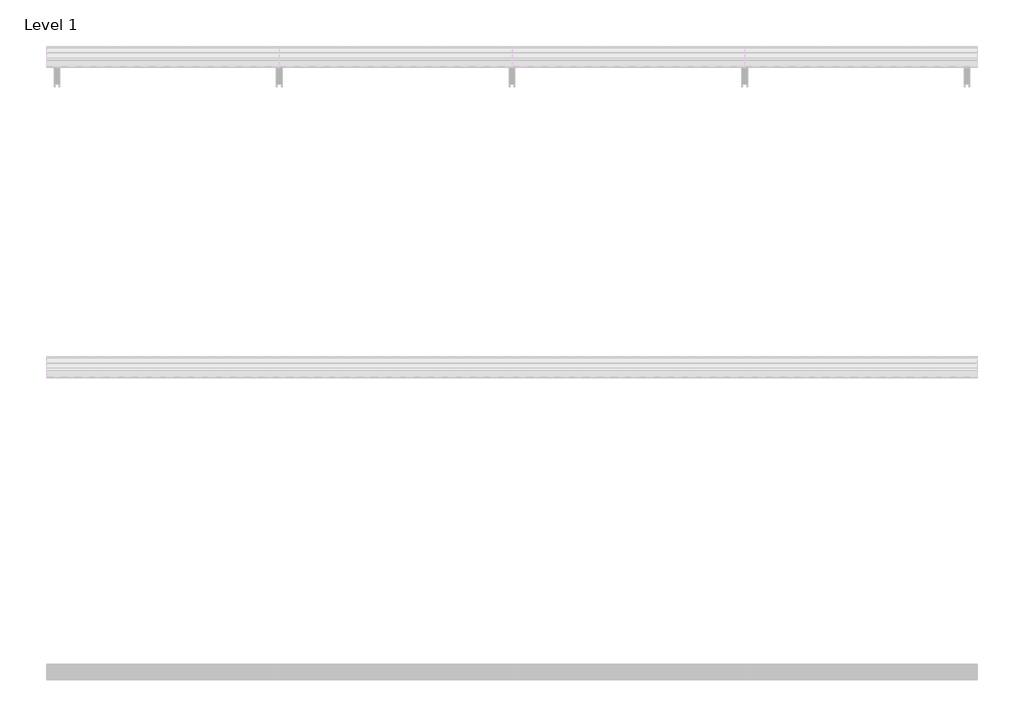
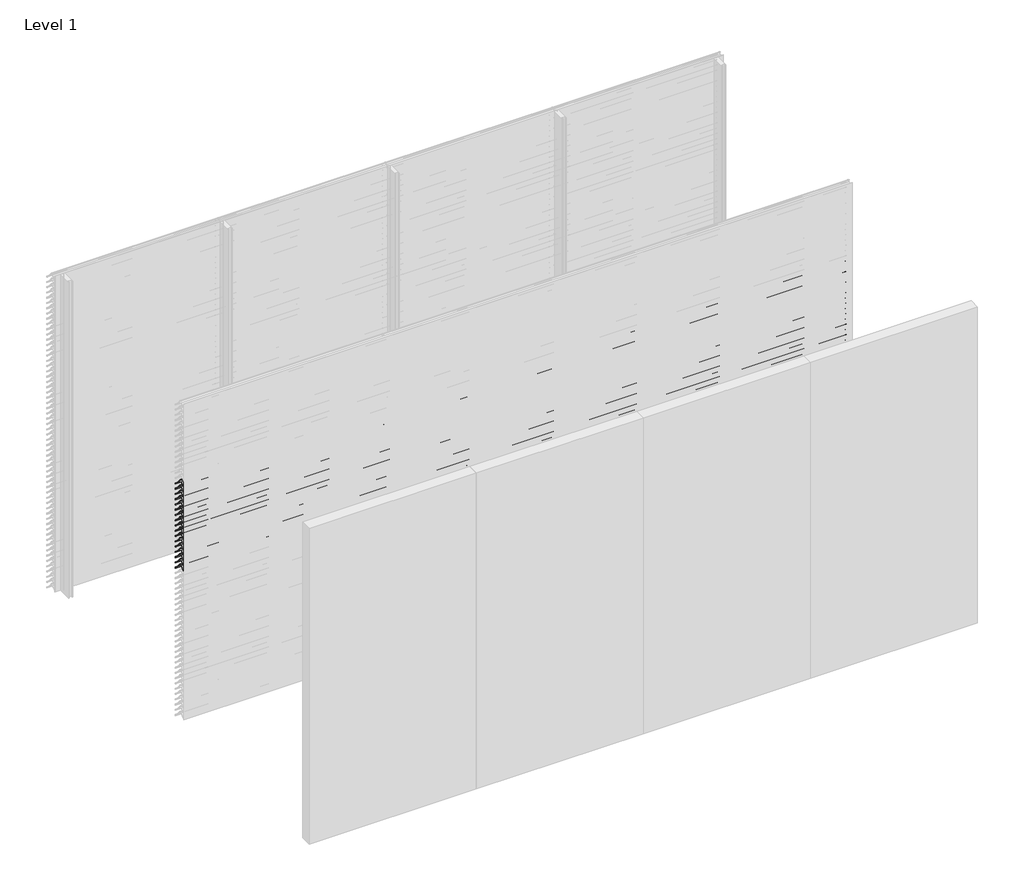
# One storey, part 21 of 173: 17 proxies.
"""IFC4 building model written with IfcOpenShell, lengths in millimetres."""

from ifc_helpers import new_model, si_unit, point, frame, frame_2d, origin, place, context, project, spatial, polyline, circle_curve, trimmed, segment, composite_curve, outline, extrude, element, save

model = new_model("IFC4")

# Units and contexts
model_context = context("Model", 3, world=origin())
ifc_project = project(units=[si_unit("LENGTHUNIT", "METRE", prefix="MILLI")], contexts=[model_context])

# Site, building, storey
site = spatial("IfcSite", under=ifc_project)
building = spatial("IfcBuilding", under=site)
storey = spatial("IfcBuildingStorey", under=building, Name="Level 1", Elevation=0.0)

# Proxies
placement = place(None, origin())
element("IfcBuildingElementProxy", 1, Name="Wall Sweeps", at=placement, inside=storey, context=model_context, shape_type="SweptSolid", body=[
    extrude(outline(composite_curve([segment(polyline([(-49998.0, 2209.1474905), (-49998.0, 2211.6227417)]), True, "CONTINUOUS"), segment(trimmed(circle_curve(frame_2d((-49951.2682172, 2166.2200208)), 65.1557103), [point((-49998.0, 2211.6227417))], [point((-49954.4014323, 2231.3003524))], False, "CARTESIAN"), True, "CONTINUOUS"), segment(polyline([(-49954.4014323, 2231.3003524), (-49934.8315836, 2231.3003524)]), True, "CONTINUOUS"), segment(trimmed(circle_curve(frame_2d((-49732.7329489, 2378.5533172)), 250.0545817), [point((-49934.8315836, 2231.3003524))], [point((-49941.4452143, 2240.8344583))], False, "CARTESIAN"), True, "CONTINUOUS"), segment(trimmed(circle_curve(frame_2d((-49953.2981792, 2235.1737835)), 13.1352966), [point((-49941.4452143, 2240.8344583))], [point((-49953.8171475, 2248.298824))], True, "CARTESIAN"), True, "CONTINUOUS"), segment(polyline([(-49953.8171475, 2248.298824), (-49953.8171475, 2250.0)]), True, "CONTINUOUS"), segment(trimmed(circle_curve(frame_2d((-49953.2981792, 2235.1737835)), 14.8352966), [point((-49953.8171475, 2250.0))], [point((-49939.9637661, 2241.6760487))], False, "CARTESIAN"), True, "CONTINUOUS"), segment(trimmed(circle_curve(frame_2d((-49732.7329489, 2378.5533172)), 248.3545817), [point((-49939.9637661, 2241.6760487))], [point((-49873.8787895, 2174.2059416))], True, "CARTESIAN"), True, "CONTINUOUS"), segment(trimmed(circle_curve(frame_2d((-49883.8147537, 2161.6649442)), 16.0), [point((-49873.8787895, 2174.2059416))], [point((-49867.8648347, 2160.4))], False, "CARTESIAN"), True, "CONTINUOUS"), segment(polyline([(-49867.8648347, 2160.4), (-49869.6712069, 2160.4)]), True, "CONTINUOUS"), segment(trimmed(circle_curve(frame_2d((-49883.8147537, 2161.6649442)), 14.2), [point((-49869.6712069, 2160.4))], [point((-49874.9518628, 2172.7594998))], True, "CARTESIAN"), True, "CONTINUOUS"), segment(trimmed(circle_curve(frame_2d((-49732.7329489, 2378.5533172)), 250.1545817), [point((-49874.9518628, 2172.7594998))], [point((-49933.7064024, 2229.6003524))], False, "CARTESIAN"), True, "CONTINUOUS"), segment(polyline([(-49933.7064024, 2229.6003524), (-49954.3602632, 2229.6003524)]), True, "CONTINUOUS"), segment(trimmed(circle_curve(frame_2d((-49951.2682172, 2166.2200208)), 63.4557103), [point((-49954.3602632, 2229.6003524))], [point((-49998.0, 2209.1474905))], True, "CARTESIAN"), True, "CONTINUOUS")], self_intersect=False)), frame((0.0, 0.0, 0.0), z_axis=(1.0, 0.0, 0.0), x_axis=(0.0, 1.0, 0.0)), (0.0, 0.0, 1.0), 6000.0),
])
element("IfcBuildingElementProxy", 2, Name="Wall Sweeps", at=placement, inside=storey, context=model_context, shape_type="SweptSolid", body=[
    extrude(outline(composite_curve([segment(polyline([(-49998.0, 2159.1474905), (-49998.0, 2161.6227417)]), True, "CONTINUOUS"), segment(trimmed(circle_curve(frame_2d((-49951.2682172, 2116.2200208)), 65.1557103), [point((-49998.0, 2161.6227417))], [point((-49954.4014323, 2181.3003524))], False, "CARTESIAN"), True, "CONTINUOUS"), segment(polyline([(-49954.4014323, 2181.3003524), (-49934.8315836, 2181.3003524)]), True, "CONTINUOUS"), segment(trimmed(circle_curve(frame_2d((-49732.7329489, 2328.5533172)), 250.0545817), [point((-49934.8315836, 2181.3003524))], [point((-49941.4452143, 2190.8344583))], False, "CARTESIAN"), True, "CONTINUOUS"), segment(trimmed(circle_curve(frame_2d((-49953.2981792, 2185.1737835)), 13.1352966), [point((-49941.4452143, 2190.8344583))], [point((-49953.8171475, 2198.298824))], True, "CARTESIAN"), True, "CONTINUOUS"), segment(polyline([(-49953.8171475, 2198.298824), (-49953.8171475, 2200.0)]), True, "CONTINUOUS"), segment(trimmed(circle_curve(frame_2d((-49953.2981792, 2185.1737835)), 14.8352966), [point((-49953.8171475, 2200.0))], [point((-49939.9637661, 2191.6760487))], False, "CARTESIAN"), True, "CONTINUOUS"), segment(trimmed(circle_curve(frame_2d((-49732.7329489, 2328.5533172)), 248.3545817), [point((-49939.9637661, 2191.6760487))], [point((-49873.8787895, 2124.2059416))], True, "CARTESIAN"), True, "CONTINUOUS"), segment(trimmed(circle_curve(frame_2d((-49883.8147537, 2111.6649442)), 16.0), [point((-49873.8787895, 2124.2059416))], [point((-49867.8648347, 2110.4))], False, "CARTESIAN"), True, "CONTINUOUS"), segment(polyline([(-49867.8648347, 2110.4), (-49869.6712069, 2110.4)]), True, "CONTINUOUS"), segment(trimmed(circle_curve(frame_2d((-49883.8147537, 2111.6649442)), 14.2), [point((-49869.6712069, 2110.4))], [point((-49874.9518628, 2122.7594998))], True, "CARTESIAN"), True, "CONTINUOUS"), segment(trimmed(circle_curve(frame_2d((-49732.7329489, 2328.5533172)), 250.1545817), [point((-49874.9518628, 2122.7594998))], [point((-49933.7064024, 2179.6003524))], False, "CARTESIAN"), True, "CONTINUOUS"), segment(polyline([(-49933.7064024, 2179.6003524), (-49954.3602632, 2179.6003524)]), True, "CONTINUOUS"), segment(trimmed(circle_curve(frame_2d((-49951.2682172, 2116.2200208)), 63.4557103), [point((-49954.3602632, 2179.6003524))], [point((-49998.0, 2159.1474905))], True, "CARTESIAN"), True, "CONTINUOUS")], self_intersect=False)), frame((0.0, 0.0, 0.0), z_axis=(1.0, 0.0, 0.0), x_axis=(0.0, 1.0, 0.0)), (0.0, 0.0, 1.0), 6000.0),
])
element("IfcBuildingElementProxy", 3, Name="Wall Sweeps", at=placement, inside=storey, context=model_context, shape_type="SweptSolid", body=[
    extrude(outline(composite_curve([segment(polyline([(-49998.0, 2109.1474905), (-49998.0, 2111.6227417)]), True, "CONTINUOUS"), segment(trimmed(circle_curve(frame_2d((-49951.2682172, 2066.2200208)), 65.1557103), [point((-49998.0, 2111.6227417))], [point((-49954.4014323, 2131.3003524))], False, "CARTESIAN"), True, "CONTINUOUS"), segment(polyline([(-49954.4014323, 2131.3003524), (-49934.8315836, 2131.3003524)]), True, "CONTINUOUS"), segment(trimmed(circle_curve(frame_2d((-49732.7329489, 2278.5533172)), 250.0545817), [point((-49934.8315836, 2131.3003524))], [point((-49941.4452143, 2140.8344583))], False, "CARTESIAN"), True, "CONTINUOUS"), segment(trimmed(circle_curve(frame_2d((-49953.2981792, 2135.1737835)), 13.1352966), [point((-49941.4452143, 2140.8344583))], [point((-49953.8171475, 2148.298824))], True, "CARTESIAN"), True, "CONTINUOUS"), segment(polyline([(-49953.8171475, 2148.298824), (-49953.8171475, 2150.0)]), True, "CONTINUOUS"), segment(trimmed(circle_curve(frame_2d((-49953.2981792, 2135.1737835)), 14.8352966), [point((-49953.8171475, 2150.0))], [point((-49939.9637661, 2141.6760487))], False, "CARTESIAN"), True, "CONTINUOUS"), segment(trimmed(circle_curve(frame_2d((-49732.7329489, 2278.5533172)), 248.3545817), [point((-49939.9637661, 2141.6760487))], [point((-49873.8787895, 2074.2059416))], True, "CARTESIAN"), True, "CONTINUOUS"), segment(trimmed(circle_curve(frame_2d((-49883.8147537, 2061.6649442)), 16.0), [point((-49873.8787895, 2074.2059416))], [point((-49867.8648347, 2060.4))], False, "CARTESIAN"), True, "CONTINUOUS"), segment(polyline([(-49867.8648347, 2060.4), (-49869.6712069, 2060.4)]), True, "CONTINUOUS"), segment(trimmed(circle_curve(frame_2d((-49883.8147537, 2061.6649442)), 14.2), [point((-49869.6712069, 2060.4))], [point((-49874.9518628, 2072.7594998))], True, "CARTESIAN"), True, "CONTINUOUS"), segment(trimmed(circle_curve(frame_2d((-49732.7329489, 2278.5533172)), 250.1545817), [point((-49874.9518628, 2072.7594998))], [point((-49933.7064024, 2129.6003524))], False, "CARTESIAN"), True, "CONTINUOUS"), segment(polyline([(-49933.7064024, 2129.6003524), (-49954.3602632, 2129.6003524)]), True, "CONTINUOUS"), segment(trimmed(circle_curve(frame_2d((-49951.2682172, 2066.2200208)), 63.4557103), [point((-49954.3602632, 2129.6003524))], [point((-49998.0, 2109.1474905))], True, "CARTESIAN"), True, "CONTINUOUS")], self_intersect=False)), frame((0.0, 0.0, 0.0), z_axis=(1.0, 0.0, 0.0), x_axis=(0.0, 1.0, 0.0)), (0.0, 0.0, 1.0), 6000.0),
])
element("IfcBuildingElementProxy", 4, Name="Wall Sweeps", at=placement, inside=storey, context=model_context, shape_type="SweptSolid", body=[
    extrude(outline(composite_curve([segment(polyline([(-49998.0, 2059.1474905), (-49998.0, 2061.6227417)]), True, "CONTINUOUS"), segment(trimmed(circle_curve(frame_2d((-49951.2682172, 2016.2200208)), 65.1557103), [point((-49998.0, 2061.6227417))], [point((-49954.4014323, 2081.3003524))], False, "CARTESIAN"), True, "CONTINUOUS"), segment(polyline([(-49954.4014323, 2081.3003524), (-49934.8315836, 2081.3003524)]), True, "CONTINUOUS"), segment(trimmed(circle_curve(frame_2d((-49732.7329489, 2228.5533172)), 250.0545817), [point((-49934.8315836, 2081.3003524))], [point((-49941.4452143, 2090.8344583))], False, "CARTESIAN"), True, "CONTINUOUS"), segment(trimmed(circle_curve(frame_2d((-49953.2981792, 2085.1737835)), 13.1352966), [point((-49941.4452143, 2090.8344583))], [point((-49953.8171475, 2098.298824))], True, "CARTESIAN"), True, "CONTINUOUS"), segment(polyline([(-49953.8171475, 2098.298824), (-49953.8171475, 2100.0)]), True, "CONTINUOUS"), segment(trimmed(circle_curve(frame_2d((-49953.2981792, 2085.1737835)), 14.8352966), [point((-49953.8171475, 2100.0))], [point((-49939.9637661, 2091.6760487))], False, "CARTESIAN"), True, "CONTINUOUS"), segment(trimmed(circle_curve(frame_2d((-49732.7329489, 2228.5533172)), 248.3545817), [point((-49939.9637661, 2091.6760487))], [point((-49873.8787895, 2024.2059416))], True, "CARTESIAN"), True, "CONTINUOUS"), segment(trimmed(circle_curve(frame_2d((-49883.8147537, 2011.6649442)), 16.0), [point((-49873.8787895, 2024.2059416))], [point((-49867.8648347, 2010.4))], False, "CARTESIAN"), True, "CONTINUOUS"), segment(polyline([(-49867.8648347, 2010.4), (-49869.6712069, 2010.4)]), True, "CONTINUOUS"), segment(trimmed(circle_curve(frame_2d((-49883.8147537, 2011.6649442)), 14.2), [point((-49869.6712069, 2010.4))], [point((-49874.9518628, 2022.7594998))], True, "CARTESIAN"), True, "CONTINUOUS"), segment(trimmed(circle_curve(frame_2d((-49732.7329489, 2228.5533172)), 250.1545817), [point((-49874.9518628, 2022.7594998))], [point((-49933.7064024, 2079.6003524))], False, "CARTESIAN"), True, "CONTINUOUS"), segment(polyline([(-49933.7064024, 2079.6003524), (-49954.3602632, 2079.6003524)]), True, "CONTINUOUS"), segment(trimmed(circle_curve(frame_2d((-49951.2682172, 2016.2200208)), 63.4557103), [point((-49954.3602632, 2079.6003524))], [point((-49998.0, 2059.1474905))], True, "CARTESIAN"), True, "CONTINUOUS")], self_intersect=False)), frame((0.0, 0.0, 0.0), z_axis=(1.0, 0.0, 0.0), x_axis=(0.0, 1.0, 0.0)), (0.0, 0.0, 1.0), 6000.0),
])
element("IfcBuildingElementProxy", 5, Name="Wall Sweeps", at=placement, inside=storey, context=model_context, shape_type="SweptSolid", body=[
    extrude(outline(composite_curve([segment(polyline([(-49998.0, 2009.1474905), (-49998.0, 2011.6227417)]), True, "CONTINUOUS"), segment(trimmed(circle_curve(frame_2d((-49951.2682172, 1966.2200208)), 65.1557103), [point((-49998.0, 2011.6227417))], [point((-49954.4014323, 2031.3003524))], False, "CARTESIAN"), True, "CONTINUOUS"), segment(polyline([(-49954.4014323, 2031.3003524), (-49934.8315836, 2031.3003524)]), True, "CONTINUOUS"), segment(trimmed(circle_curve(frame_2d((-49732.7329489, 2178.5533172)), 250.0545817), [point((-49934.8315836, 2031.3003524))], [point((-49941.4452143, 2040.8344583))], False, "CARTESIAN"), True, "CONTINUOUS"), segment(trimmed(circle_curve(frame_2d((-49953.2981792, 2035.1737835)), 13.1352966), [point((-49941.4452143, 2040.8344583))], [point((-49953.8171475, 2048.298824))], True, "CARTESIAN"), True, "CONTINUOUS"), segment(polyline([(-49953.8171475, 2048.298824), (-49953.8171475, 2050.0)]), True, "CONTINUOUS"), segment(trimmed(circle_curve(frame_2d((-49953.2981792, 2035.1737835)), 14.8352966), [point((-49953.8171475, 2050.0))], [point((-49939.9637661, 2041.6760487))], False, "CARTESIAN"), True, "CONTINUOUS"), segment(trimmed(circle_curve(frame_2d((-49732.7329489, 2178.5533172)), 248.3545817), [point((-49939.9637661, 2041.6760487))], [point((-49873.8787895, 1974.2059416))], True, "CARTESIAN"), True, "CONTINUOUS"), segment(trimmed(circle_curve(frame_2d((-49883.8147537, 1961.6649442)), 16.0), [point((-49873.8787895, 1974.2059416))], [point((-49867.8648347, 1960.4))], False, "CARTESIAN"), True, "CONTINUOUS"), segment(polyline([(-49867.8648347, 1960.4), (-49869.6712069, 1960.4)]), True, "CONTINUOUS"), segment(trimmed(circle_curve(frame_2d((-49883.8147537, 1961.6649442)), 14.2), [point((-49869.6712069, 1960.4))], [point((-49874.9518628, 1972.7594998))], True, "CARTESIAN"), True, "CONTINUOUS"), segment(trimmed(circle_curve(frame_2d((-49732.7329489, 2178.5533172)), 250.1545817), [point((-49874.9518628, 1972.7594998))], [point((-49933.7064024, 2029.6003524))], False, "CARTESIAN"), True, "CONTINUOUS"), segment(polyline([(-49933.7064024, 2029.6003524), (-49954.3602632, 2029.6003524)]), True, "CONTINUOUS"), segment(trimmed(circle_curve(frame_2d((-49951.2682172, 1966.2200208)), 63.4557103), [point((-49954.3602632, 2029.6003524))], [point((-49998.0, 2009.1474905))], True, "CARTESIAN"), True, "CONTINUOUS")], self_intersect=False)), frame((0.0, 0.0, 0.0), z_axis=(1.0, 0.0, 0.0), x_axis=(0.0, 1.0, 0.0)), (0.0, 0.0, 1.0), 6000.0),
])
element("IfcBuildingElementProxy", 6, Name="Wall Sweeps", at=placement, inside=storey, context=model_context, shape_type="SweptSolid", body=[
    extrude(outline(composite_curve([segment(polyline([(-49998.0, 1959.1474905), (-49998.0, 1961.6227417)]), True, "CONTINUOUS"), segment(trimmed(circle_curve(frame_2d((-49951.2682172, 1916.2200208)), 65.1557103), [point((-49998.0, 1961.6227417))], [point((-49954.4014323, 1981.3003524))], False, "CARTESIAN"), True, "CONTINUOUS"), segment(polyline([(-49954.4014323, 1981.3003524), (-49934.8315836, 1981.3003524)]), True, "CONTINUOUS"), segment(trimmed(circle_curve(frame_2d((-49732.7329489, 2128.5533172)), 250.0545817), [point((-49934.8315836, 1981.3003524))], [point((-49941.4452143, 1990.8344583))], False, "CARTESIAN"), True, "CONTINUOUS"), segment(trimmed(circle_curve(frame_2d((-49953.2981792, 1985.1737835)), 13.1352966), [point((-49941.4452143, 1990.8344583))], [point((-49953.8171475, 1998.298824))], True, "CARTESIAN"), True, "CONTINUOUS"), segment(polyline([(-49953.8171475, 1998.298824), (-49953.8171475, 2000.0)]), True, "CONTINUOUS"), segment(trimmed(circle_curve(frame_2d((-49953.2981792, 1985.1737835)), 14.8352966), [point((-49953.8171475, 2000.0))], [point((-49939.9637661, 1991.6760487))], False, "CARTESIAN"), True, "CONTINUOUS"), segment(trimmed(circle_curve(frame_2d((-49732.7329489, 2128.5533172)), 248.3545817), [point((-49939.9637661, 1991.6760487))], [point((-49873.8787895, 1924.2059416))], True, "CARTESIAN"), True, "CONTINUOUS"), segment(trimmed(circle_curve(frame_2d((-49883.8147537, 1911.6649442)), 16.0), [point((-49873.8787895, 1924.2059416))], [point((-49867.8648347, 1910.4))], False, "CARTESIAN"), True, "CONTINUOUS"), segment(polyline([(-49867.8648347, 1910.4), (-49869.6712069, 1910.4)]), True, "CONTINUOUS"), segment(trimmed(circle_curve(frame_2d((-49883.8147537, 1911.6649442)), 14.2), [point((-49869.6712069, 1910.4))], [point((-49874.9518628, 1922.7594998))], True, "CARTESIAN"), True, "CONTINUOUS"), segment(trimmed(circle_curve(frame_2d((-49732.7329489, 2128.5533172)), 250.1545817), [point((-49874.9518628, 1922.7594998))], [point((-49933.7064024, 1979.6003524))], False, "CARTESIAN"), True, "CONTINUOUS"), segment(polyline([(-49933.7064024, 1979.6003524), (-49954.3602632, 1979.6003524)]), True, "CONTINUOUS"), segment(trimmed(circle_curve(frame_2d((-49951.2682172, 1916.2200208)), 63.4557103), [point((-49954.3602632, 1979.6003524))], [point((-49998.0, 1959.1474905))], True, "CARTESIAN"), True, "CONTINUOUS")], self_intersect=False)), frame((0.0, 0.0, 0.0), z_axis=(1.0, 0.0, 0.0), x_axis=(0.0, 1.0, 0.0)), (0.0, 0.0, 1.0), 6000.0),
])
element("IfcBuildingElementProxy", 7, Name="Wall Sweeps", at=placement, inside=storey, context=model_context, shape_type="SweptSolid", body=[
    extrude(outline(composite_curve([segment(polyline([(-49998.0, 1909.1474905), (-49998.0, 1911.6227417)]), True, "CONTINUOUS"), segment(trimmed(circle_curve(frame_2d((-49951.2682172, 1866.2200208)), 65.1557103), [point((-49998.0, 1911.6227417))], [point((-49954.4014323, 1931.3003524))], False, "CARTESIAN"), True, "CONTINUOUS"), segment(polyline([(-49954.4014323, 1931.3003524), (-49934.8315836, 1931.3003524)]), True, "CONTINUOUS"), segment(trimmed(circle_curve(frame_2d((-49732.7329489, 2078.5533172)), 250.0545817), [point((-49934.8315836, 1931.3003524))], [point((-49941.4452143, 1940.8344583))], False, "CARTESIAN"), True, "CONTINUOUS"), segment(trimmed(circle_curve(frame_2d((-49953.2981792, 1935.1737835)), 13.1352966), [point((-49941.4452143, 1940.8344583))], [point((-49953.8171475, 1948.298824))], True, "CARTESIAN"), True, "CONTINUOUS"), segment(polyline([(-49953.8171475, 1948.298824), (-49953.8171475, 1950.0)]), True, "CONTINUOUS"), segment(trimmed(circle_curve(frame_2d((-49953.2981792, 1935.1737835)), 14.8352966), [point((-49953.8171475, 1950.0))], [point((-49939.9637661, 1941.6760487))], False, "CARTESIAN"), True, "CONTINUOUS"), segment(trimmed(circle_curve(frame_2d((-49732.7329489, 2078.5533172)), 248.3545817), [point((-49939.9637661, 1941.6760487))], [point((-49873.8787895, 1874.2059416))], True, "CARTESIAN"), True, "CONTINUOUS"), segment(trimmed(circle_curve(frame_2d((-49883.8147537, 1861.6649442)), 16.0), [point((-49873.8787895, 1874.2059416))], [point((-49867.8648347, 1860.4))], False, "CARTESIAN"), True, "CONTINUOUS"), segment(polyline([(-49867.8648347, 1860.4), (-49869.6712069, 1860.4)]), True, "CONTINUOUS"), segment(trimmed(circle_curve(frame_2d((-49883.8147537, 1861.6649442)), 14.2), [point((-49869.6712069, 1860.4))], [point((-49874.9518628, 1872.7594998))], True, "CARTESIAN"), True, "CONTINUOUS"), segment(trimmed(circle_curve(frame_2d((-49732.7329489, 2078.5533172)), 250.1545817), [point((-49874.9518628, 1872.7594998))], [point((-49933.7064024, 1929.6003524))], False, "CARTESIAN"), True, "CONTINUOUS"), segment(polyline([(-49933.7064024, 1929.6003524), (-49954.3602632, 1929.6003524)]), True, "CONTINUOUS"), segment(trimmed(circle_curve(frame_2d((-49951.2682172, 1866.2200208)), 63.4557103), [point((-49954.3602632, 1929.6003524))], [point((-49998.0, 1909.1474905))], True, "CARTESIAN"), True, "CONTINUOUS")], self_intersect=False)), frame((0.0, 0.0, 0.0), z_axis=(1.0, 0.0, 0.0), x_axis=(0.0, 1.0, 0.0)), (0.0, 0.0, 1.0), 6000.0),
])
element("IfcBuildingElementProxy", 8, Name="Wall Sweeps", at=placement, inside=storey, context=model_context, shape_type="SweptSolid", body=[
    extrude(outline(composite_curve([segment(polyline([(-49998.0, 1859.1474905), (-49998.0, 1861.6227417)]), True, "CONTINUOUS"), segment(trimmed(circle_curve(frame_2d((-49951.2682172, 1816.2200208)), 65.1557103), [point((-49998.0, 1861.6227417))], [point((-49954.4014323, 1881.3003524))], False, "CARTESIAN"), True, "CONTINUOUS"), segment(polyline([(-49954.4014323, 1881.3003524), (-49934.8315836, 1881.3003524)]), True, "CONTINUOUS"), segment(trimmed(circle_curve(frame_2d((-49732.7329489, 2028.5533172)), 250.0545817), [point((-49934.8315836, 1881.3003524))], [point((-49941.4452143, 1890.8344583))], False, "CARTESIAN"), True, "CONTINUOUS"), segment(trimmed(circle_curve(frame_2d((-49953.2981792, 1885.1737835)), 13.1352966), [point((-49941.4452143, 1890.8344583))], [point((-49953.8171475, 1898.298824))], True, "CARTESIAN"), True, "CONTINUOUS"), segment(polyline([(-49953.8171475, 1898.298824), (-49953.8171475, 1900.0)]), True, "CONTINUOUS"), segment(trimmed(circle_curve(frame_2d((-49953.2981792, 1885.1737835)), 14.8352966), [point((-49953.8171475, 1900.0))], [point((-49939.9637661, 1891.6760487))], False, "CARTESIAN"), True, "CONTINUOUS"), segment(trimmed(circle_curve(frame_2d((-49732.7329489, 2028.5533172)), 248.3545817), [point((-49939.9637661, 1891.6760487))], [point((-49873.8787895, 1824.2059416))], True, "CARTESIAN"), True, "CONTINUOUS"), segment(trimmed(circle_curve(frame_2d((-49883.8147537, 1811.6649442)), 16.0), [point((-49873.8787895, 1824.2059416))], [point((-49867.8648347, 1810.4))], False, "CARTESIAN"), True, "CONTINUOUS"), segment(polyline([(-49867.8648347, 1810.4), (-49869.6712069, 1810.4)]), True, "CONTINUOUS"), segment(trimmed(circle_curve(frame_2d((-49883.8147537, 1811.6649442)), 14.2), [point((-49869.6712069, 1810.4))], [point((-49874.9518628, 1822.7594998))], True, "CARTESIAN"), True, "CONTINUOUS"), segment(trimmed(circle_curve(frame_2d((-49732.7329489, 2028.5533172)), 250.1545817), [point((-49874.9518628, 1822.7594998))], [point((-49933.7064024, 1879.6003524))], False, "CARTESIAN"), True, "CONTINUOUS"), segment(polyline([(-49933.7064024, 1879.6003524), (-49954.3602632, 1879.6003524)]), True, "CONTINUOUS"), segment(trimmed(circle_curve(frame_2d((-49951.2682172, 1816.2200208)), 63.4557103), [point((-49954.3602632, 1879.6003524))], [point((-49998.0, 1859.1474905))], True, "CARTESIAN"), True, "CONTINUOUS")], self_intersect=False)), frame((0.0, 0.0, 0.0), z_axis=(1.0, 0.0, 0.0), x_axis=(0.0, 1.0, 0.0)), (0.0, 0.0, 1.0), 6000.0),
])
element("IfcBuildingElementProxy", 9, Name="Wall Sweeps", at=placement, inside=storey, context=model_context, shape_type="SweptSolid", body=[
    extrude(outline(composite_curve([segment(polyline([(-49998.0, 1809.1474905), (-49998.0, 1811.6227417)]), True, "CONTINUOUS"), segment(trimmed(circle_curve(frame_2d((-49951.2682172, 1766.2200208)), 65.1557103), [point((-49998.0, 1811.6227417))], [point((-49954.4014323, 1831.3003524))], False, "CARTESIAN"), True, "CONTINUOUS"), segment(polyline([(-49954.4014323, 1831.3003524), (-49934.8315836, 1831.3003524)]), True, "CONTINUOUS"), segment(trimmed(circle_curve(frame_2d((-49732.7329489, 1978.5533172)), 250.0545817), [point((-49934.8315836, 1831.3003524))], [point((-49941.4452143, 1840.8344583))], False, "CARTESIAN"), True, "CONTINUOUS"), segment(trimmed(circle_curve(frame_2d((-49953.2981792, 1835.1737835)), 13.1352966), [point((-49941.4452143, 1840.8344583))], [point((-49953.8171475, 1848.298824))], True, "CARTESIAN"), True, "CONTINUOUS"), segment(polyline([(-49953.8171475, 1848.298824), (-49953.8171475, 1850.0)]), True, "CONTINUOUS"), segment(trimmed(circle_curve(frame_2d((-49953.2981792, 1835.1737835)), 14.8352966), [point((-49953.8171475, 1850.0))], [point((-49939.9637661, 1841.6760487))], False, "CARTESIAN"), True, "CONTINUOUS"), segment(trimmed(circle_curve(frame_2d((-49732.7329489, 1978.5533172)), 248.3545817), [point((-49939.9637661, 1841.6760487))], [point((-49873.8787895, 1774.2059416))], True, "CARTESIAN"), True, "CONTINUOUS"), segment(trimmed(circle_curve(frame_2d((-49883.8147537, 1761.6649442)), 16.0), [point((-49873.8787895, 1774.2059416))], [point((-49867.8648347, 1760.4))], False, "CARTESIAN"), True, "CONTINUOUS"), segment(polyline([(-49867.8648347, 1760.4), (-49869.6712069, 1760.4)]), True, "CONTINUOUS"), segment(trimmed(circle_curve(frame_2d((-49883.8147537, 1761.6649442)), 14.2), [point((-49869.6712069, 1760.4))], [point((-49874.9518628, 1772.7594998))], True, "CARTESIAN"), True, "CONTINUOUS"), segment(trimmed(circle_curve(frame_2d((-49732.7329489, 1978.5533172)), 250.1545817), [point((-49874.9518628, 1772.7594998))], [point((-49933.7064024, 1829.6003524))], False, "CARTESIAN"), True, "CONTINUOUS"), segment(polyline([(-49933.7064024, 1829.6003524), (-49954.3602632, 1829.6003524)]), True, "CONTINUOUS"), segment(trimmed(circle_curve(frame_2d((-49951.2682172, 1766.2200208)), 63.4557103), [point((-49954.3602632, 1829.6003524))], [point((-49998.0, 1809.1474905))], True, "CARTESIAN"), True, "CONTINUOUS")], self_intersect=False)), frame((0.0, 0.0, 0.0), z_axis=(1.0, 0.0, 0.0), x_axis=(0.0, 1.0, 0.0)), (0.0, 0.0, 1.0), 6000.0),
])
element("IfcBuildingElementProxy", 10, Name="Wall Sweeps", at=placement, inside=storey, context=model_context, shape_type="SweptSolid", body=[
    extrude(outline(composite_curve([segment(polyline([(-49998.0, 1759.1474905), (-49998.0, 1761.6227417)]), True, "CONTINUOUS"), segment(trimmed(circle_curve(frame_2d((-49951.2682172, 1716.2200208)), 65.1557103), [point((-49998.0, 1761.6227417))], [point((-49954.4014323, 1781.3003524))], False, "CARTESIAN"), True, "CONTINUOUS"), segment(polyline([(-49954.4014323, 1781.3003524), (-49934.8315836, 1781.3003524)]), True, "CONTINUOUS"), segment(trimmed(circle_curve(frame_2d((-49732.7329489, 1928.5533172)), 250.0545817), [point((-49934.8315836, 1781.3003524))], [point((-49941.4452143, 1790.8344583))], False, "CARTESIAN"), True, "CONTINUOUS"), segment(trimmed(circle_curve(frame_2d((-49953.2981792, 1785.1737835)), 13.1352966), [point((-49941.4452143, 1790.8344583))], [point((-49953.8171475, 1798.298824))], True, "CARTESIAN"), True, "CONTINUOUS"), segment(polyline([(-49953.8171475, 1798.298824), (-49953.8171475, 1800.0)]), True, "CONTINUOUS"), segment(trimmed(circle_curve(frame_2d((-49953.2981792, 1785.1737835)), 14.8352966), [point((-49953.8171475, 1800.0))], [point((-49939.9637661, 1791.6760487))], False, "CARTESIAN"), True, "CONTINUOUS"), segment(trimmed(circle_curve(frame_2d((-49732.7329489, 1928.5533172)), 248.3545817), [point((-49939.9637661, 1791.6760487))], [point((-49873.8787895, 1724.2059416))], True, "CARTESIAN"), True, "CONTINUOUS"), segment(trimmed(circle_curve(frame_2d((-49883.8147537, 1711.6649442)), 16.0), [point((-49873.8787895, 1724.2059416))], [point((-49867.8648347, 1710.4))], False, "CARTESIAN"), True, "CONTINUOUS"), segment(polyline([(-49867.8648347, 1710.4), (-49869.6712069, 1710.4)]), True, "CONTINUOUS"), segment(trimmed(circle_curve(frame_2d((-49883.8147537, 1711.6649442)), 14.2), [point((-49869.6712069, 1710.4))], [point((-49874.9518628, 1722.7594998))], True, "CARTESIAN"), True, "CONTINUOUS"), segment(trimmed(circle_curve(frame_2d((-49732.7329489, 1928.5533172)), 250.1545817), [point((-49874.9518628, 1722.7594998))], [point((-49933.7064024, 1779.6003524))], False, "CARTESIAN"), True, "CONTINUOUS"), segment(polyline([(-49933.7064024, 1779.6003524), (-49954.3602632, 1779.6003524)]), True, "CONTINUOUS"), segment(trimmed(circle_curve(frame_2d((-49951.2682172, 1716.2200208)), 63.4557103), [point((-49954.3602632, 1779.6003524))], [point((-49998.0, 1759.1474905))], True, "CARTESIAN"), True, "CONTINUOUS")], self_intersect=False)), frame((0.0, 0.0, 0.0), z_axis=(1.0, 0.0, 0.0), x_axis=(0.0, 1.0, 0.0)), (0.0, 0.0, 1.0), 6000.0),
])
element("IfcBuildingElementProxy", 11, Name="Wall Sweeps", at=placement, inside=storey, context=model_context, shape_type="SweptSolid", body=[
    extrude(outline(composite_curve([segment(polyline([(-49998.0, 1709.1474905), (-49998.0, 1711.6227417)]), True, "CONTINUOUS"), segment(trimmed(circle_curve(frame_2d((-49951.2682172, 1666.2200208)), 65.1557103), [point((-49998.0, 1711.6227417))], [point((-49954.4014323, 1731.3003524))], False, "CARTESIAN"), True, "CONTINUOUS"), segment(polyline([(-49954.4014323, 1731.3003524), (-49934.8315836, 1731.3003524)]), True, "CONTINUOUS"), segment(trimmed(circle_curve(frame_2d((-49732.7329489, 1878.5533172)), 250.0545817), [point((-49934.8315836, 1731.3003524))], [point((-49941.4452143, 1740.8344583))], False, "CARTESIAN"), True, "CONTINUOUS"), segment(trimmed(circle_curve(frame_2d((-49953.2981792, 1735.1737835)), 13.1352966), [point((-49941.4452143, 1740.8344583))], [point((-49953.8171475, 1748.298824))], True, "CARTESIAN"), True, "CONTINUOUS"), segment(polyline([(-49953.8171475, 1748.298824), (-49953.8171475, 1750.0)]), True, "CONTINUOUS"), segment(trimmed(circle_curve(frame_2d((-49953.2981792, 1735.1737835)), 14.8352966), [point((-49953.8171475, 1750.0))], [point((-49939.9637661, 1741.6760487))], False, "CARTESIAN"), True, "CONTINUOUS"), segment(trimmed(circle_curve(frame_2d((-49732.7329489, 1878.5533172)), 248.3545817), [point((-49939.9637661, 1741.6760487))], [point((-49873.8787895, 1674.2059416))], True, "CARTESIAN"), True, "CONTINUOUS"), segment(trimmed(circle_curve(frame_2d((-49883.8147537, 1661.6649442)), 16.0), [point((-49873.8787895, 1674.2059416))], [point((-49867.8648347, 1660.4))], False, "CARTESIAN"), True, "CONTINUOUS"), segment(polyline([(-49867.8648347, 1660.4), (-49869.6712069, 1660.4)]), True, "CONTINUOUS"), segment(trimmed(circle_curve(frame_2d((-49883.8147537, 1661.6649442)), 14.2), [point((-49869.6712069, 1660.4))], [point((-49874.9518628, 1672.7594998))], True, "CARTESIAN"), True, "CONTINUOUS"), segment(trimmed(circle_curve(frame_2d((-49732.7329489, 1878.5533172)), 250.1545817), [point((-49874.9518628, 1672.7594998))], [point((-49933.7064024, 1729.6003524))], False, "CARTESIAN"), True, "CONTINUOUS"), segment(polyline([(-49933.7064024, 1729.6003524), (-49954.3602632, 1729.6003524)]), True, "CONTINUOUS"), segment(trimmed(circle_curve(frame_2d((-49951.2682172, 1666.2200208)), 63.4557103), [point((-49954.3602632, 1729.6003524))], [point((-49998.0, 1709.1474905))], True, "CARTESIAN"), True, "CONTINUOUS")], self_intersect=False)), frame((0.0, 0.0, 0.0), z_axis=(1.0, 0.0, 0.0), x_axis=(0.0, 1.0, 0.0)), (0.0, 0.0, 1.0), 6000.0),
])
element("IfcBuildingElementProxy", 12, Name="Wall Sweeps", at=placement, inside=storey, context=model_context, shape_type="SweptSolid", body=[
    extrude(outline(composite_curve([segment(polyline([(-49998.0, 1659.1474905), (-49998.0, 1661.6227417)]), True, "CONTINUOUS"), segment(trimmed(circle_curve(frame_2d((-49951.2682172, 1616.2200208)), 65.1557103), [point((-49998.0, 1661.6227417))], [point((-49954.4014323, 1681.3003524))], False, "CARTESIAN"), True, "CONTINUOUS"), segment(polyline([(-49954.4014323, 1681.3003524), (-49934.8315836, 1681.3003524)]), True, "CONTINUOUS"), segment(trimmed(circle_curve(frame_2d((-49732.7329489, 1828.5533172)), 250.0545817), [point((-49934.8315836, 1681.3003524))], [point((-49941.4452143, 1690.8344583))], False, "CARTESIAN"), True, "CONTINUOUS"), segment(trimmed(circle_curve(frame_2d((-49953.2981792, 1685.1737835)), 13.1352966), [point((-49941.4452143, 1690.8344583))], [point((-49953.8171475, 1698.298824))], True, "CARTESIAN"), True, "CONTINUOUS"), segment(polyline([(-49953.8171475, 1698.298824), (-49953.8171475, 1700.0)]), True, "CONTINUOUS"), segment(trimmed(circle_curve(frame_2d((-49953.2981792, 1685.1737835)), 14.8352966), [point((-49953.8171475, 1700.0))], [point((-49939.9637661, 1691.6760487))], False, "CARTESIAN"), True, "CONTINUOUS"), segment(trimmed(circle_curve(frame_2d((-49732.7329489, 1828.5533172)), 248.3545817), [point((-49939.9637661, 1691.6760487))], [point((-49873.8787895, 1624.2059416))], True, "CARTESIAN"), True, "CONTINUOUS"), segment(trimmed(circle_curve(frame_2d((-49883.8147537, 1611.6649442)), 16.0), [point((-49873.8787895, 1624.2059416))], [point((-49867.8648347, 1610.4))], False, "CARTESIAN"), True, "CONTINUOUS"), segment(polyline([(-49867.8648347, 1610.4), (-49869.6712069, 1610.4)]), True, "CONTINUOUS"), segment(trimmed(circle_curve(frame_2d((-49883.8147537, 1611.6649442)), 14.2), [point((-49869.6712069, 1610.4))], [point((-49874.9518628, 1622.7594998))], True, "CARTESIAN"), True, "CONTINUOUS"), segment(trimmed(circle_curve(frame_2d((-49732.7329489, 1828.5533172)), 250.1545817), [point((-49874.9518628, 1622.7594998))], [point((-49933.7064024, 1679.6003524))], False, "CARTESIAN"), True, "CONTINUOUS"), segment(polyline([(-49933.7064024, 1679.6003524), (-49954.3602632, 1679.6003524)]), True, "CONTINUOUS"), segment(trimmed(circle_curve(frame_2d((-49951.2682172, 1616.2200208)), 63.4557103), [point((-49954.3602632, 1679.6003524))], [point((-49998.0, 1659.1474905))], True, "CARTESIAN"), True, "CONTINUOUS")], self_intersect=False)), frame((0.0, 0.0, 0.0), z_axis=(1.0, 0.0, 0.0), x_axis=(0.0, 1.0, 0.0)), (0.0, 0.0, 1.0), 6000.0),
])
element("IfcBuildingElementProxy", 13, Name="Wall Sweeps", at=placement, inside=storey, context=model_context, shape_type="SweptSolid", body=[
    extrude(outline(composite_curve([segment(polyline([(-49998.0, 1609.1474905), (-49998.0, 1611.6227417)]), True, "CONTINUOUS"), segment(trimmed(circle_curve(frame_2d((-49951.2682172, 1566.2200208)), 65.1557103), [point((-49998.0, 1611.6227417))], [point((-49954.4014323, 1631.3003524))], False, "CARTESIAN"), True, "CONTINUOUS"), segment(polyline([(-49954.4014323, 1631.3003524), (-49934.8315836, 1631.3003524)]), True, "CONTINUOUS"), segment(trimmed(circle_curve(frame_2d((-49732.7329489, 1778.5533172)), 250.0545817), [point((-49934.8315836, 1631.3003524))], [point((-49941.4452143, 1640.8344583))], False, "CARTESIAN"), True, "CONTINUOUS"), segment(trimmed(circle_curve(frame_2d((-49953.2981792, 1635.1737835)), 13.1352966), [point((-49941.4452143, 1640.8344583))], [point((-49953.8171475, 1648.298824))], True, "CARTESIAN"), True, "CONTINUOUS"), segment(polyline([(-49953.8171475, 1648.298824), (-49953.8171475, 1650.0)]), True, "CONTINUOUS"), segment(trimmed(circle_curve(frame_2d((-49953.2981792, 1635.1737835)), 14.8352966), [point((-49953.8171475, 1650.0))], [point((-49939.9637661, 1641.6760487))], False, "CARTESIAN"), True, "CONTINUOUS"), segment(trimmed(circle_curve(frame_2d((-49732.7329489, 1778.5533172)), 248.3545817), [point((-49939.9637661, 1641.6760487))], [point((-49873.8787895, 1574.2059416))], True, "CARTESIAN"), True, "CONTINUOUS"), segment(trimmed(circle_curve(frame_2d((-49883.8147537, 1561.6649442)), 16.0), [point((-49873.8787895, 1574.2059416))], [point((-49867.8648347, 1560.4))], False, "CARTESIAN"), True, "CONTINUOUS"), segment(polyline([(-49867.8648347, 1560.4), (-49869.6712069, 1560.4)]), True, "CONTINUOUS"), segment(trimmed(circle_curve(frame_2d((-49883.8147537, 1561.6649442)), 14.2), [point((-49869.6712069, 1560.4))], [point((-49874.9518628, 1572.7594998))], True, "CARTESIAN"), True, "CONTINUOUS"), segment(trimmed(circle_curve(frame_2d((-49732.7329489, 1778.5533172)), 250.1545817), [point((-49874.9518628, 1572.7594998))], [point((-49933.7064024, 1629.6003524))], False, "CARTESIAN"), True, "CONTINUOUS"), segment(polyline([(-49933.7064024, 1629.6003524), (-49954.3602632, 1629.6003524)]), True, "CONTINUOUS"), segment(trimmed(circle_curve(frame_2d((-49951.2682172, 1566.2200208)), 63.4557103), [point((-49954.3602632, 1629.6003524))], [point((-49998.0, 1609.1474905))], True, "CARTESIAN"), True, "CONTINUOUS")], self_intersect=False)), frame((0.0, 0.0, 0.0), z_axis=(1.0, 0.0, 0.0), x_axis=(0.0, 1.0, 0.0)), (0.0, 0.0, 1.0), 6000.0),
])
element("IfcBuildingElementProxy", 14, Name="Wall Sweeps", at=placement, inside=storey, context=model_context, shape_type="SweptSolid", body=[
    extrude(outline(composite_curve([segment(polyline([(-49998.0, 1559.1474905), (-49998.0, 1561.6227417)]), True, "CONTINUOUS"), segment(trimmed(circle_curve(frame_2d((-49951.2682172, 1516.2200208)), 65.1557103), [point((-49998.0, 1561.6227417))], [point((-49954.4014323, 1581.3003524))], False, "CARTESIAN"), True, "CONTINUOUS"), segment(polyline([(-49954.4014323, 1581.3003524), (-49934.8315836, 1581.3003524)]), True, "CONTINUOUS"), segment(trimmed(circle_curve(frame_2d((-49732.7329489, 1728.5533172)), 250.0545817), [point((-49934.8315836, 1581.3003524))], [point((-49941.4452143, 1590.8344583))], False, "CARTESIAN"), True, "CONTINUOUS"), segment(trimmed(circle_curve(frame_2d((-49953.2981792, 1585.1737835)), 13.1352966), [point((-49941.4452143, 1590.8344583))], [point((-49953.8171475, 1598.298824))], True, "CARTESIAN"), True, "CONTINUOUS"), segment(polyline([(-49953.8171475, 1598.298824), (-49953.8171475, 1600.0)]), True, "CONTINUOUS"), segment(trimmed(circle_curve(frame_2d((-49953.2981792, 1585.1737835)), 14.8352966), [point((-49953.8171475, 1600.0))], [point((-49939.9637661, 1591.6760487))], False, "CARTESIAN"), True, "CONTINUOUS"), segment(trimmed(circle_curve(frame_2d((-49732.7329489, 1728.5533172)), 248.3545817), [point((-49939.9637661, 1591.6760487))], [point((-49873.8787895, 1524.2059416))], True, "CARTESIAN"), True, "CONTINUOUS"), segment(trimmed(circle_curve(frame_2d((-49883.8147537, 1511.6649442)), 16.0), [point((-49873.8787895, 1524.2059416))], [point((-49867.8648347, 1510.4))], False, "CARTESIAN"), True, "CONTINUOUS"), segment(polyline([(-49867.8648347, 1510.4), (-49869.6712069, 1510.4)]), True, "CONTINUOUS"), segment(trimmed(circle_curve(frame_2d((-49883.8147537, 1511.6649442)), 14.2), [point((-49869.6712069, 1510.4))], [point((-49874.9518628, 1522.7594998))], True, "CARTESIAN"), True, "CONTINUOUS"), segment(trimmed(circle_curve(frame_2d((-49732.7329489, 1728.5533172)), 250.1545817), [point((-49874.9518628, 1522.7594998))], [point((-49933.7064024, 1579.6003524))], False, "CARTESIAN"), True, "CONTINUOUS"), segment(polyline([(-49933.7064024, 1579.6003524), (-49954.3602632, 1579.6003524)]), True, "CONTINUOUS"), segment(trimmed(circle_curve(frame_2d((-49951.2682172, 1516.2200208)), 63.4557103), [point((-49954.3602632, 1579.6003524))], [point((-49998.0, 1559.1474905))], True, "CARTESIAN"), True, "CONTINUOUS")], self_intersect=False)), frame((0.0, 0.0, 0.0), z_axis=(1.0, 0.0, 0.0), x_axis=(0.0, 1.0, 0.0)), (0.0, 0.0, 1.0), 6000.0),
])
element("IfcBuildingElementProxy", 15, Name="Wall Sweeps", at=placement, inside=storey, context=model_context, shape_type="SweptSolid", body=[
    extrude(outline(composite_curve([segment(polyline([(-49998.0, 1509.1474905), (-49998.0, 1511.6227417)]), True, "CONTINUOUS"), segment(trimmed(circle_curve(frame_2d((-49951.2682172, 1466.2200208)), 65.1557103), [point((-49998.0, 1511.6227417))], [point((-49954.4014323, 1531.3003524))], False, "CARTESIAN"), True, "CONTINUOUS"), segment(polyline([(-49954.4014323, 1531.3003524), (-49934.8315836, 1531.3003524)]), True, "CONTINUOUS"), segment(trimmed(circle_curve(frame_2d((-49732.7329489, 1678.5533172)), 250.0545817), [point((-49934.8315836, 1531.3003524))], [point((-49941.4452143, 1540.8344583))], False, "CARTESIAN"), True, "CONTINUOUS"), segment(trimmed(circle_curve(frame_2d((-49953.2981792, 1535.1737835)), 13.1352966), [point((-49941.4452143, 1540.8344583))], [point((-49953.8171475, 1548.298824))], True, "CARTESIAN"), True, "CONTINUOUS"), segment(polyline([(-49953.8171475, 1548.298824), (-49953.8171475, 1550.0)]), True, "CONTINUOUS"), segment(trimmed(circle_curve(frame_2d((-49953.2981792, 1535.1737835)), 14.8352966), [point((-49953.8171475, 1550.0))], [point((-49939.9637661, 1541.6760487))], False, "CARTESIAN"), True, "CONTINUOUS"), segment(trimmed(circle_curve(frame_2d((-49732.7329489, 1678.5533172)), 248.3545817), [point((-49939.9637661, 1541.6760487))], [point((-49873.8787895, 1474.2059416))], True, "CARTESIAN"), True, "CONTINUOUS"), segment(trimmed(circle_curve(frame_2d((-49883.8147537, 1461.6649442)), 16.0), [point((-49873.8787895, 1474.2059416))], [point((-49867.8648347, 1460.4))], False, "CARTESIAN"), True, "CONTINUOUS"), segment(polyline([(-49867.8648347, 1460.4), (-49869.6712069, 1460.4)]), True, "CONTINUOUS"), segment(trimmed(circle_curve(frame_2d((-49883.8147537, 1461.6649442)), 14.2), [point((-49869.6712069, 1460.4))], [point((-49874.9518628, 1472.7594998))], True, "CARTESIAN"), True, "CONTINUOUS"), segment(trimmed(circle_curve(frame_2d((-49732.7329489, 1678.5533172)), 250.1545817), [point((-49874.9518628, 1472.7594998))], [point((-49933.7064024, 1529.6003524))], False, "CARTESIAN"), True, "CONTINUOUS"), segment(polyline([(-49933.7064024, 1529.6003524), (-49954.3602632, 1529.6003524)]), True, "CONTINUOUS"), segment(trimmed(circle_curve(frame_2d((-49951.2682172, 1466.2200208)), 63.4557103), [point((-49954.3602632, 1529.6003524))], [point((-49998.0, 1509.1474905))], True, "CARTESIAN"), True, "CONTINUOUS")], self_intersect=False)), frame((0.0, 0.0, 0.0), z_axis=(1.0, 0.0, 0.0), x_axis=(0.0, 1.0, 0.0)), (0.0, 0.0, 1.0), 6000.0),
])
element("IfcBuildingElementProxy", 16, Name="Wall Sweeps", at=placement, inside=storey, context=model_context, shape_type="SweptSolid", body=[
    extrude(outline(composite_curve([segment(polyline([(-49998.0, 1459.1474905), (-49998.0, 1461.6227417)]), True, "CONTINUOUS"), segment(trimmed(circle_curve(frame_2d((-49951.2682172, 1416.2200208)), 65.1557103), [point((-49998.0, 1461.6227417))], [point((-49954.4014323, 1481.3003524))], False, "CARTESIAN"), True, "CONTINUOUS"), segment(polyline([(-49954.4014323, 1481.3003524), (-49934.8315836, 1481.3003524)]), True, "CONTINUOUS"), segment(trimmed(circle_curve(frame_2d((-49732.7329489, 1628.5533172)), 250.0545817), [point((-49934.8315836, 1481.3003524))], [point((-49941.4452143, 1490.8344583))], False, "CARTESIAN"), True, "CONTINUOUS"), segment(trimmed(circle_curve(frame_2d((-49953.2981792, 1485.1737835)), 13.1352966), [point((-49941.4452143, 1490.8344583))], [point((-49953.8171475, 1498.298824))], True, "CARTESIAN"), True, "CONTINUOUS"), segment(polyline([(-49953.8171475, 1498.298824), (-49953.8171475, 1500.0)]), True, "CONTINUOUS"), segment(trimmed(circle_curve(frame_2d((-49953.2981792, 1485.1737835)), 14.8352966), [point((-49953.8171475, 1500.0))], [point((-49939.9637661, 1491.6760487))], False, "CARTESIAN"), True, "CONTINUOUS"), segment(trimmed(circle_curve(frame_2d((-49732.7329489, 1628.5533172)), 248.3545817), [point((-49939.9637661, 1491.6760487))], [point((-49873.8787895, 1424.2059416))], True, "CARTESIAN"), True, "CONTINUOUS"), segment(trimmed(circle_curve(frame_2d((-49883.8147537, 1411.6649442)), 16.0), [point((-49873.8787895, 1424.2059416))], [point((-49867.8648347, 1410.4))], False, "CARTESIAN"), True, "CONTINUOUS"), segment(polyline([(-49867.8648347, 1410.4), (-49869.6712069, 1410.4)]), True, "CONTINUOUS"), segment(trimmed(circle_curve(frame_2d((-49883.8147537, 1411.6649442)), 14.2), [point((-49869.6712069, 1410.4))], [point((-49874.9518628, 1422.7594998))], True, "CARTESIAN"), True, "CONTINUOUS"), segment(trimmed(circle_curve(frame_2d((-49732.7329489, 1628.5533172)), 250.1545817), [point((-49874.9518628, 1422.7594998))], [point((-49933.7064024, 1479.6003524))], False, "CARTESIAN"), True, "CONTINUOUS"), segment(polyline([(-49933.7064024, 1479.6003524), (-49954.3602632, 1479.6003524)]), True, "CONTINUOUS"), segment(trimmed(circle_curve(frame_2d((-49951.2682172, 1416.2200208)), 63.4557103), [point((-49954.3602632, 1479.6003524))], [point((-49998.0, 1459.1474905))], True, "CARTESIAN"), True, "CONTINUOUS")], self_intersect=False)), frame((0.0, 0.0, 0.0), z_axis=(1.0, 0.0, 0.0), x_axis=(0.0, 1.0, 0.0)), (0.0, 0.0, 1.0), 6000.0),
])
element("IfcBuildingElementProxy", 17, Name="Wall Sweeps", at=placement, inside=storey, context=model_context, shape_type="SweptSolid", body=[
    extrude(outline(composite_curve([segment(polyline([(-49998.0, 1409.1474905), (-49998.0, 1411.6227417)]), True, "CONTINUOUS"), segment(trimmed(circle_curve(frame_2d((-49951.2682172, 1366.2200208)), 65.1557103), [point((-49998.0, 1411.6227417))], [point((-49954.4014323, 1431.3003524))], False, "CARTESIAN"), True, "CONTINUOUS"), segment(polyline([(-49954.4014323, 1431.3003524), (-49934.8315836, 1431.3003524)]), True, "CONTINUOUS"), segment(trimmed(circle_curve(frame_2d((-49732.7329489, 1578.5533172)), 250.0545817), [point((-49934.8315836, 1431.3003524))], [point((-49941.4452143, 1440.8344583))], False, "CARTESIAN"), True, "CONTINUOUS"), segment(trimmed(circle_curve(frame_2d((-49953.2981792, 1435.1737835)), 13.1352966), [point((-49941.4452143, 1440.8344583))], [point((-49953.8171475, 1448.298824))], True, "CARTESIAN"), True, "CONTINUOUS"), segment(polyline([(-49953.8171475, 1448.298824), (-49953.8171475, 1450.0)]), True, "CONTINUOUS"), segment(trimmed(circle_curve(frame_2d((-49953.2981792, 1435.1737835)), 14.8352966), [point((-49953.8171475, 1450.0))], [point((-49939.9637661, 1441.6760487))], False, "CARTESIAN"), True, "CONTINUOUS"), segment(trimmed(circle_curve(frame_2d((-49732.7329489, 1578.5533172)), 248.3545817), [point((-49939.9637661, 1441.6760487))], [point((-49873.8787895, 1374.2059416))], True, "CARTESIAN"), True, "CONTINUOUS"), segment(trimmed(circle_curve(frame_2d((-49883.8147537, 1361.6649442)), 16.0), [point((-49873.8787895, 1374.2059416))], [point((-49867.8648347, 1360.4))], False, "CARTESIAN"), True, "CONTINUOUS"), segment(polyline([(-49867.8648347, 1360.4), (-49869.6712069, 1360.4)]), True, "CONTINUOUS"), segment(trimmed(circle_curve(frame_2d((-49883.8147537, 1361.6649442)), 14.2), [point((-49869.6712069, 1360.4))], [point((-49874.9518628, 1372.7594998))], True, "CARTESIAN"), True, "CONTINUOUS"), segment(trimmed(circle_curve(frame_2d((-49732.7329489, 1578.5533172)), 250.1545817), [point((-49874.9518628, 1372.7594998))], [point((-49933.7064024, 1429.6003524))], False, "CARTESIAN"), True, "CONTINUOUS"), segment(polyline([(-49933.7064024, 1429.6003524), (-49954.3602632, 1429.6003524)]), True, "CONTINUOUS"), segment(trimmed(circle_curve(frame_2d((-49951.2682172, 1366.2200208)), 63.4557103), [point((-49954.3602632, 1429.6003524))], [point((-49998.0, 1409.1474905))], True, "CARTESIAN"), True, "CONTINUOUS")], self_intersect=False)), frame((0.0, 0.0, 0.0), z_axis=(1.0, 0.0, 0.0), x_axis=(0.0, 1.0, 0.0)), (0.0, 0.0, 1.0), 6000.0),
])

save(model, "model.ifc")
